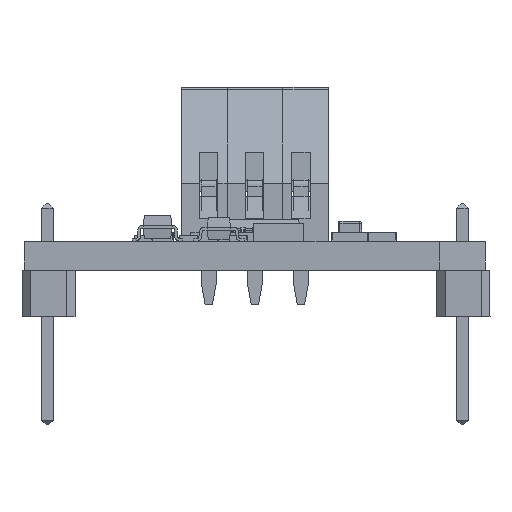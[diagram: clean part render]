
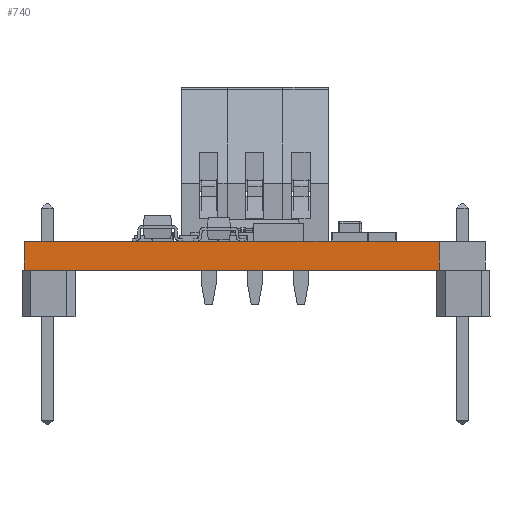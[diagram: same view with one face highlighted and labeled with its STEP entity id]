
A CAD part, front view. The second image highlights one B-rep face of the part: STEP entity #740.
In plain terms, the highlighted planar face has unit normal (0, -1, 0).
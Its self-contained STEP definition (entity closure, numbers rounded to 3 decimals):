
#715 = VERTEX_POINT('',#716);
#716 = CARTESIAN_POINT('',(10.16,-28.702,0.));
#722 = EDGE_CURVE('',#723,#715,#725,.T.);
#723 = VERTEX_POINT('',#724);
#724 = CARTESIAN_POINT('',(10.16,-28.702,-1.59));
#725 = LINE('',#726,#727);
#726 = CARTESIAN_POINT('',(10.16,-28.702,-1.59));
#727 = VECTOR('',#728,1.);
#728 = DIRECTION('',(0.,0.,1.));
#740 = ADVANCED_FACE('',(#741),#766,.T.);
#741 = FACE_BOUND('',#742,.T.);
#742 = EDGE_LOOP('',(#743,#744,#752,#760));
#743 = ORIENTED_EDGE('',*,*,#722,.T.);
#744 = ORIENTED_EDGE('',*,*,#745,.T.);
#745 = EDGE_CURVE('',#715,#746,#748,.T.);
#746 = VERTEX_POINT('',#747);
#747 = CARTESIAN_POINT('',(-12.7,-28.702,0.));
#748 = LINE('',#749,#750);
#749 = CARTESIAN_POINT('',(10.16,-28.702,0.));
#750 = VECTOR('',#751,1.);
#751 = DIRECTION('',(-1.,0.,0.));
#752 = ORIENTED_EDGE('',*,*,#753,.F.);
#753 = EDGE_CURVE('',#754,#746,#756,.T.);
#754 = VERTEX_POINT('',#755);
#755 = CARTESIAN_POINT('',(-12.7,-28.702,-1.59));
#756 = LINE('',#757,#758);
#757 = CARTESIAN_POINT('',(-12.7,-28.702,-1.59));
#758 = VECTOR('',#759,1.);
#759 = DIRECTION('',(0.,0.,1.));
#760 = ORIENTED_EDGE('',*,*,#761,.F.);
#761 = EDGE_CURVE('',#723,#754,#762,.T.);
#762 = LINE('',#763,#764);
#763 = CARTESIAN_POINT('',(10.16,-28.702,-1.59));
#764 = VECTOR('',#765,1.);
#765 = DIRECTION('',(-1.,0.,0.));
#766 = PLANE('',#767);
#767 = AXIS2_PLACEMENT_3D('',#768,#769,#770);
#768 = CARTESIAN_POINT('',(10.16,-28.702,-1.59));
#769 = DIRECTION('',(0.,-1.,0.));
#770 = DIRECTION('',(-1.,0.,0.));
